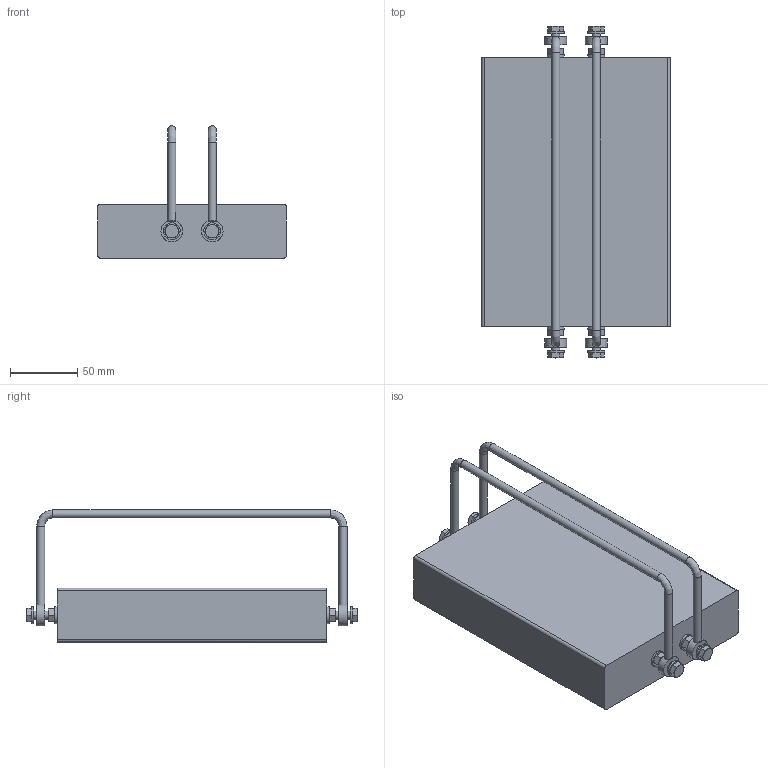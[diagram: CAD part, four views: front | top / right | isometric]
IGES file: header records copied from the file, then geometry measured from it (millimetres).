
Global section: file name: TiMG2; native system: unknown; preprocessor: unknown; author: unknown; organization: unknown; date: 20230630.103440; units: millimetre
Bounding box: 140 x 246 x 97.99 mm (x, y, z)
Volume: 1138780.8 mm3; surface area: 113152.8 mm2
Topology: 23 solids, 23 shells, 234 faces, 548 edges, 364 vertices
Faces by surface type: bspline 234
